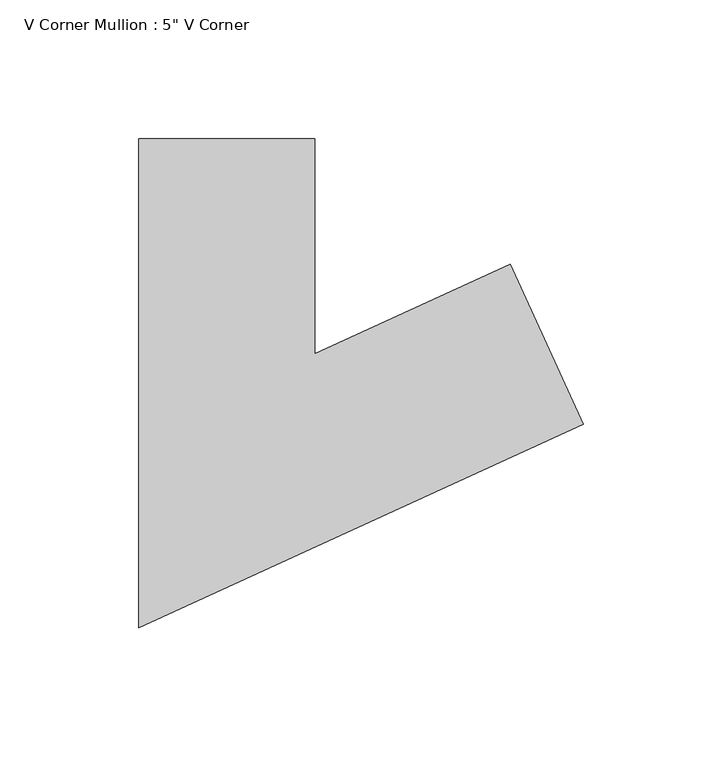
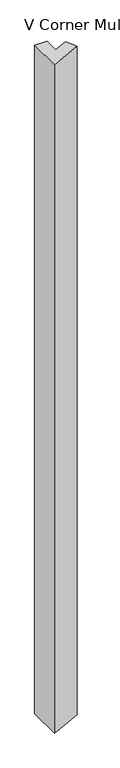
"""IFC4 building model written with IfcOpenShell, lengths in millimetres: member geometry."""

from ifc_helpers import new_model, si_unit, frame, origin, place, context, project, spatial, polyline, outline, extrude, source, transform, mapped, element, save


def member_6ebc2d4b(model_context):
    return source(origin(), model_context, "Body", "SweptSolid", [
        extrude(outline(polyline([(87.9205542, -39.5195451), (-72.5228811, -112.9476953), (-72.5228811, 63.5), (-9.0228811, 63.5), (-9.0228811, -14.0523047), (61.49523, 18.2208415), (87.9205542, -39.5195451)])), frame((0.0, 0.0, -3657.6), z_axis=(0.0, 0.0, 1.0), x_axis=(1.0, 0.0, 0.0)), (0.0, 0.0, 1.0), 3657.6),
    ])


if __name__ == "__main__":
    model = new_model("IFC4")
    model_context = context("Model", 3, world=origin())
    ifc_project = project(units=[si_unit("LENGTHUNIT", "METRE", prefix="MILLI")], contexts=[model_context])
    site = spatial("IfcSite", under=ifc_project)
    building = spatial("IfcBuilding", under=site)
    placement = place(None, origin())
    member_shape = member_6ebc2d4b(model_context)
    element("IfcMember", 1, ObjectType="V Corner Mullion : 5\" V Corner", at=placement, inside=building, context=model_context, shape_type="MappedRepresentation", body=[
        mapped(member_shape, transform((0.0, 0.0, 0.0), x_axis=(1.0, 0.0, 0.0), y_axis=(0.0, 1.0, 0.0), z_axis=(0.0, 0.0, 1.0))),
    ])
    save(model, "model.ifc")
